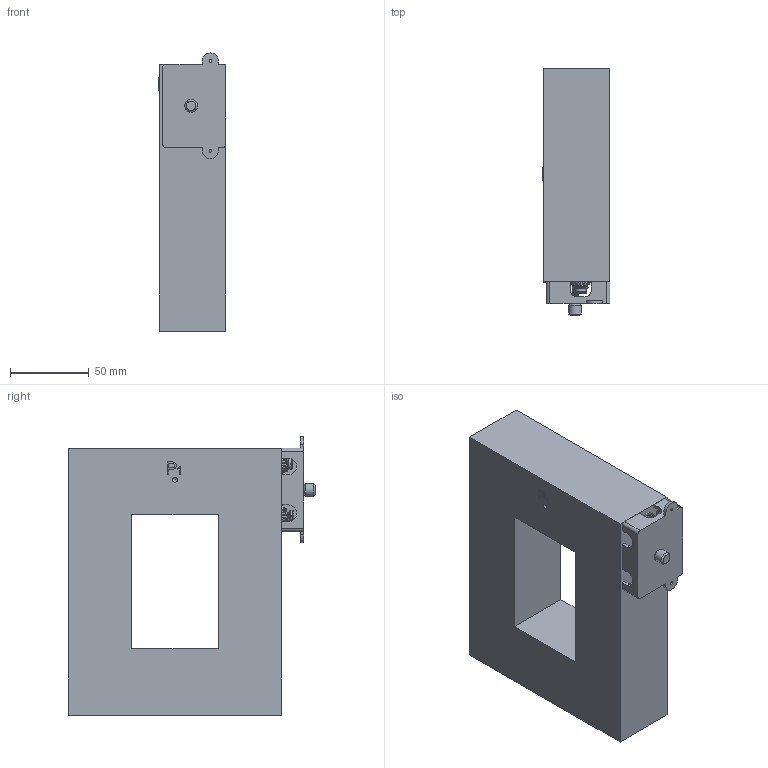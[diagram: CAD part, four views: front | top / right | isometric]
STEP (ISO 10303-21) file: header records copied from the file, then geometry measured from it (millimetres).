
FILE_DESCRIPTION(/* description */ (''),/* implementation_level */ '2;1');
FILE_NAME(/* name */ 'T:\EngMecanica\DESENHOS INVENTOR\Catalogo 2019\Arquivos STEP\KR-8555 L.stp',/* time_stamp */ '2026-08-04T15:43:04-03:00',/* author */ ('jose.luis'),/* organization */ (''),/* preprocessor_version */ 'ST-DEVELOPER v18.1',/* originating_system */ 'Autodesk Inventor 2021',/* authorisation */ '');
FILE_SCHEMA (('AUTOMOTIVE_DESIGN { 1 0 10303 214 3 1 1 }'));
Length unit declared in the file: millimetre
Products named in the file (1): Part4
Bounding box: 42.84 x 156.5 x 176.2 mm (x, y, z)
Volume: 771678 mm3; surface area: 85322 mm2
Topology: 18 solids, 18 shells, 327 faces, 853 edges, 561 vertices
Faces by surface type: cylinder 169, plane 119, torus 22, cone 10, bspline 6, sphere 1
Full cylindrical faces by diameter (mm): 1.7 x2, 3.9 x49, 4.9 x1, 5 x5, 7 x2, 8 x1, 11 x2, 13 x2
Entity records: 21166 total; most frequent: CARTESIAN_POINT 12641, ORIENTED_EDGE 1704, DIRECTION 1684, EDGE_CURVE 852, AXIS2_PLACEMENT_3D 636, VERTEX_POINT 561, LINE 412, VECTOR 412
